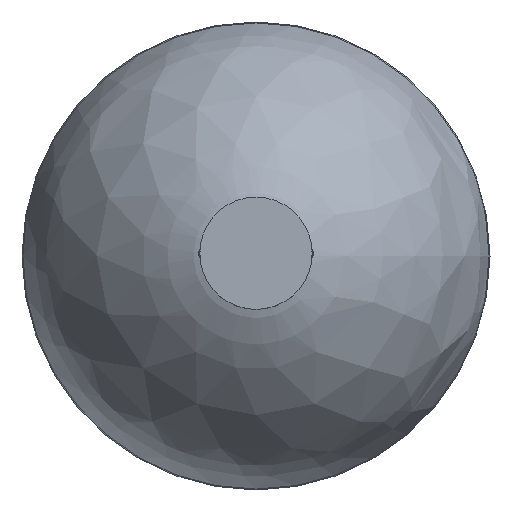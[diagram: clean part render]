
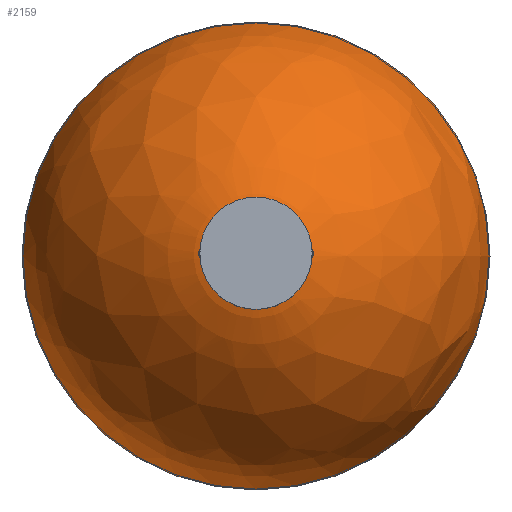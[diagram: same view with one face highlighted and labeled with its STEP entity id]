
A CAD part, top view. The second image highlights one B-rep face of the part: STEP entity #2159.
In plain terms, the highlighted free-form (B-spline) face has degree [2, 2] with [3, 9] control points.
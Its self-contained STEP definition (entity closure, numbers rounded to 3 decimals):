
#34=(
BOUNDED_SURFACE()
B_SPLINE_SURFACE(2,2,((#3404,#3405,#3406,#3407,#3408,#3409,#3410,#3411,
#3412),(#3413,#3414,#3415,#3416,#3417,#3418,#3419,#3420,#3421),(#3422,#3423,
#3424,#3425,#3426,#3427,#3428,#3429,#3430)),.UNSPECIFIED.,.F.,.T.,.F.)
B_SPLINE_SURFACE_WITH_KNOTS((3,3),(3,2,2,2,3),(-1.373,-0.14),
(-3.142,-1.571,0.,1.571,3.142),
 .UNSPECIFIED.)
GEOMETRIC_REPRESENTATION_ITEM()
RATIONAL_B_SPLINE_SURFACE(((1.,0.707,1.,0.707,1.,
0.707,1.,0.707,1.),(0.816,0.577,
0.816,0.577,0.816,0.577,
0.816,0.577,0.816),(1.,0.707,
1.,0.707,1.,0.707,1.,0.707,1.)))
REPRESENTATION_ITEM('')
SURFACE()
);
#544=FACE_OUTER_BOUND('',#673,.T.);
#673=EDGE_LOOP('',(#1490,#1491,#1492,#1493));
#789=CIRCLE('',#2366,9.);
#790=CIRCLE('',#2367,303.74);
#791=CIRCLE('',#2368,250.);
#871=VERTEX_POINT('',#3402);
#872=VERTEX_POINT('',#3431);
#1121=EDGE_CURVE('',#871,#871,#789,.T.);
#1122=EDGE_CURVE('',#871,#872,#790,.T.);
#1123=EDGE_CURVE('',#872,#872,#791,.T.);
#1490=ORIENTED_EDGE('',*,*,#1121,.T.);
#1491=ORIENTED_EDGE('',*,*,#1122,.T.);
#1492=ORIENTED_EDGE('',*,*,#1123,.F.);
#1493=ORIENTED_EDGE('',*,*,#1122,.F.);
#2159=ADVANCED_FACE('',(#544),#34,.F.);
#2366=AXIS2_PLACEMENT_3D('',#3403,#2619,#2620);
#2367=AXIS2_PLACEMENT_3D('',#3432,#2621,#2622);
#2368=AXIS2_PLACEMENT_3D('',#3433,#2623,#2624);
#2619=DIRECTION('center_axis',(0.,0.,-1.));
#2620=DIRECTION('ref_axis',(1.,0.,0.));
#2621=DIRECTION('center_axis',(0.,1.,0.));
#2622=DIRECTION('ref_axis',(1.,0.,0.));
#2623=DIRECTION('center_axis',(0.,0.,-1.));
#2624=DIRECTION('ref_axis',(1.,0.,0.));
#3402=CARTESIAN_POINT('',(9.,0.,255.5));
#3403=CARTESIAN_POINT('Origin',(0.,0.,255.5));
#3404=CARTESIAN_POINT('Ctrl Pts',(9.,0.,
255.5));
#3405=CARTESIAN_POINT('Ctrl Pts',(9.,-9.,255.5));
#3406=CARTESIAN_POINT('Ctrl Pts',(0.,-9.,
255.5));
#3407=CARTESIAN_POINT('Ctrl Pts',(-9.,-9.,255.5));
#3408=CARTESIAN_POINT('Ctrl Pts',(-9.,0.,
255.5));
#3409=CARTESIAN_POINT('Ctrl Pts',(-9.,9.,255.5));
#3410=CARTESIAN_POINT('Ctrl Pts',(0.,9.,
255.5));
#3411=CARTESIAN_POINT('Ctrl Pts',(9.,9.,255.5));
#3412=CARTESIAN_POINT('Ctrl Pts',(9.,0.,
255.5));
#3413=CARTESIAN_POINT('Ctrl Pts',(220.026,0.,
213.139));
#3414=CARTESIAN_POINT('Ctrl Pts',(220.026,-220.026,213.139));
#3415=CARTESIAN_POINT('Ctrl Pts',(0.,-220.026,
213.139));
#3416=CARTESIAN_POINT('Ctrl Pts',(-220.026,-220.026,213.139));
#3417=CARTESIAN_POINT('Ctrl Pts',(-220.026,0.,
213.139));
#3418=CARTESIAN_POINT('Ctrl Pts',(-220.026,220.026,213.139));
#3419=CARTESIAN_POINT('Ctrl Pts',(0.,220.026,
213.139));
#3420=CARTESIAN_POINT('Ctrl Pts',(220.026,220.026,213.139));
#3421=CARTESIAN_POINT('Ctrl Pts',(220.026,0.,
213.139));
#3422=CARTESIAN_POINT('Ctrl Pts',(250.,0.,0.));
#3423=CARTESIAN_POINT('Ctrl Pts',(250.,-250.,0.));
#3424=CARTESIAN_POINT('Ctrl Pts',(0.,-250.,0.));
#3425=CARTESIAN_POINT('Ctrl Pts',(-250.,-250.,0.));
#3426=CARTESIAN_POINT('Ctrl Pts',(-250.,0.,
0.));
#3427=CARTESIAN_POINT('Ctrl Pts',(-250.,250.,0.));
#3428=CARTESIAN_POINT('Ctrl Pts',(0.,250.,0.));
#3429=CARTESIAN_POINT('Ctrl Pts',(250.,250.,0.));
#3430=CARTESIAN_POINT('Ctrl Pts',(250.,0.,0.));
#3431=CARTESIAN_POINT('',(250.,0.,0.));
#3432=CARTESIAN_POINT('Origin',(-50.78,0.,
-42.299));
#3433=CARTESIAN_POINT('Origin',(0.,0.,0.));
